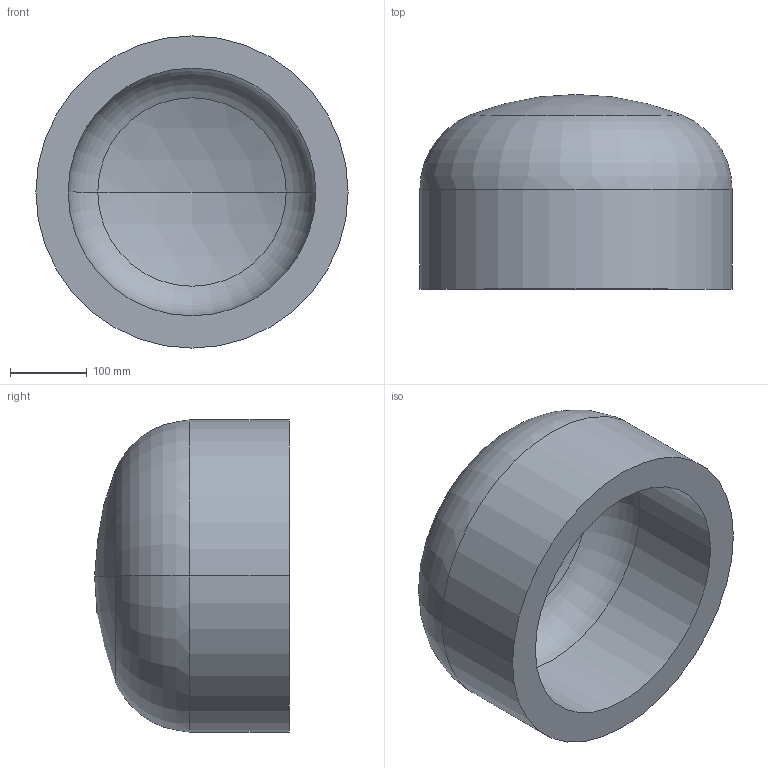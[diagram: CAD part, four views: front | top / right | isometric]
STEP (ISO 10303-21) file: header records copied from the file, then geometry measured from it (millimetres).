
FILE_DESCRIPTION (( 'STEP AP203' ), '1' );
FILE_NAME ('DIN 28013 Korbbogenform_-_Boden DIN 28013 - 406,4 x 130 - I - s=42.step', '2016-07-01T07:51:01', ( '' ), ( '' ), 'SwSTEP 2.0', 'SolidWorks 2013', '' );
FILE_SCHEMA (( 'CONFIG_CONTROL_DESIGN' ));
Length unit declared in the file: millimetre
Products named in the file (1): DIN 28013 Korbbogenform_-_Boden DIN 28013 - 406,4 x 130 - I - s=42
Bounding box: 406.4 x 253.43 x 406.4 mm (x, y, z)
Volume: 12879231 mm3; surface area: 665072.6 mm2
Topology: 1 solids, 1 shells, 13 faces, 24 edges, 14 vertices
Faces by surface type: torus 4, cylinder 4, sphere 4, plane 1
Entity records: 407 total; most frequent: DIRECTION 72, CARTESIAN_POINT 52, ORIENTED_EDGE 48, AXIS2_PLACEMENT_3D 34, EDGE_CURVE 24, CIRCLE 20, EDGE_LOOP 14, VERTEX_POINT 14
